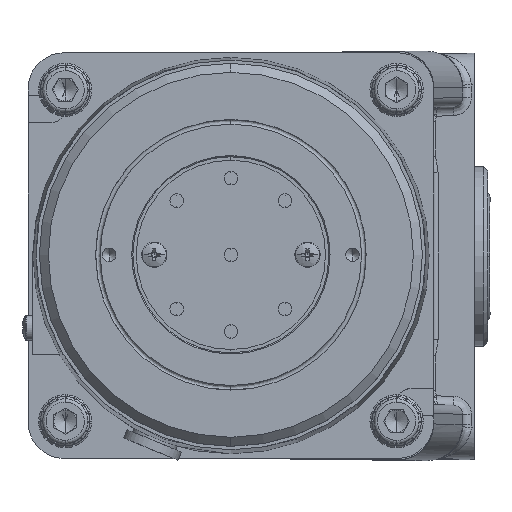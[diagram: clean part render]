
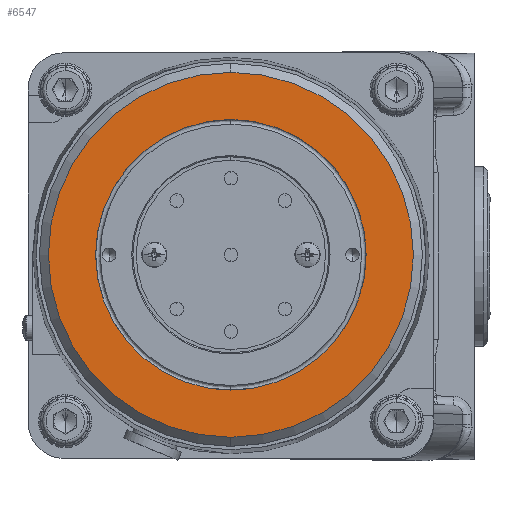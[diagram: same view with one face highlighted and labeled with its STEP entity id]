
A CAD part, top view. The second image highlights one B-rep face of the part: STEP entity #6547.
In plain terms, the highlighted planar face has unit normal (0, 0, 1) as drawn and (-1, 0, 0) by its records, which use the part's own axes.
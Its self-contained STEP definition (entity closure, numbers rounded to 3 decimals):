
#2407 = AXIS2_PLACEMENT_3D ( 'NONE', #10192, #10081, #10063 ) ;
#4900 = VERTEX_POINT ( 'NONE', #64815 ) ;
#6547 = ADVANCED_FACE ( 'NONE', ( #20182, #36349 ), #10953, .T. ) ;
#8222 = VERTEX_POINT ( 'NONE', #46179 ) ;
#8364 = CIRCLE ( 'NONE', #48557, 30. ) ;
#10063 = DIRECTION ( 'NONE',  ( 0., 0., -1. ) ) ;
#10081 = DIRECTION ( 'NONE',  ( 1., 0., 0. ) ) ;
#10192 = CARTESIAN_POINT ( 'NONE',  ( -103.202, 12.73, 243.5 ) ) ;
#10374 = DIRECTION ( 'NONE',  ( 0., 0., 1. ) ) ;
#10480 = DIRECTION ( 'NONE',  ( -1., 0., 0. ) ) ;
#10844 = CARTESIAN_POINT ( 'NONE',  ( -103.202, 12.73, 213.5 ) ) ;
#10953 = PLANE ( 'NONE',  #18753 ) ;
#11287 = EDGE_CURVE ( 'NONE', #33161, #81233, #55589, .T. ) ;
#13151 = CIRCLE ( 'NONE', #65071, 40.5 ) ;
#17915 = EDGE_CURVE ( 'NONE', #8222, #4900, #8364, .T. ) ;
#18753 = AXIS2_PLACEMENT_3D ( 'NONE', #10844, #10480, #10374 ) ;
#19862 = DIRECTION ( 'NONE',  ( 0., 0., -1. ) ) ;
#19876 = DIRECTION ( 'NONE',  ( 1., 0., 0. ) ) ;
#19969 = CARTESIAN_POINT ( 'NONE',  ( -103.202, 12.73, 243.5 ) ) ;
#20182 = FACE_BOUND ( 'NONE', #30354, .T. ) ;
#20940 = ORIENTED_EDGE ( 'NONE', *, *, #11287, .F. ) ;
#24182 = CARTESIAN_POINT ( 'NONE',  ( -103.202, 12.73, 203. ) ) ;
#26634 = DIRECTION ( 'NONE',  ( 0., 0., 1. ) ) ;
#26652 = DIRECTION ( 'NONE',  ( 1., 0., 0. ) ) ;
#26726 = CARTESIAN_POINT ( 'NONE',  ( -103.202, 12.73, 243.5 ) ) ;
#30354 = EDGE_LOOP ( 'NONE', ( #42868, #64404 ) ) ;
#31694 = ORIENTED_EDGE ( 'NONE', *, *, #46069, .F. ) ;
#33161 = VERTEX_POINT ( 'NONE', #24182 ) ;
#33452 = EDGE_LOOP ( 'NONE', ( #20940, #31694 ) ) ;
#36349 = FACE_OUTER_BOUND ( 'NONE', #33452, .T. ) ;
#41402 = AXIS2_PLACEMENT_3D ( 'NONE', #77958, #77859, #77789 ) ;
#42868 = ORIENTED_EDGE ( 'NONE', *, *, #17915, .T. ) ;
#43218 = EDGE_CURVE ( 'NONE', #4900, #8222, #53198, .T. ) ;
#46069 = EDGE_CURVE ( 'NONE', #81233, #33161, #13151, .T. ) ;
#46179 = CARTESIAN_POINT ( 'NONE',  ( -103.202, 12.73, 273.5 ) ) ;
#48026 = CARTESIAN_POINT ( 'NONE',  ( -103.202, 12.73, 284. ) ) ;
#48557 = AXIS2_PLACEMENT_3D ( 'NONE', #26726, #26652, #26634 ) ;
#53198 = CIRCLE ( 'NONE', #41402, 30. ) ;
#55589 = CIRCLE ( 'NONE', #2407, 40.5 ) ;
#64404 = ORIENTED_EDGE ( 'NONE', *, *, #43218, .T. ) ;
#64815 = CARTESIAN_POINT ( 'NONE',  ( -103.202, 12.73, 213.5 ) ) ;
#65071 = AXIS2_PLACEMENT_3D ( 'NONE', #19969, #19876, #19862 ) ;
#77789 = DIRECTION ( 'NONE',  ( 0., 0., 1. ) ) ;
#77859 = DIRECTION ( 'NONE',  ( 1., 0., 0. ) ) ;
#77958 = CARTESIAN_POINT ( 'NONE',  ( -103.202, 12.73, 243.5 ) ) ;
#81233 = VERTEX_POINT ( 'NONE', #48026 ) ;
